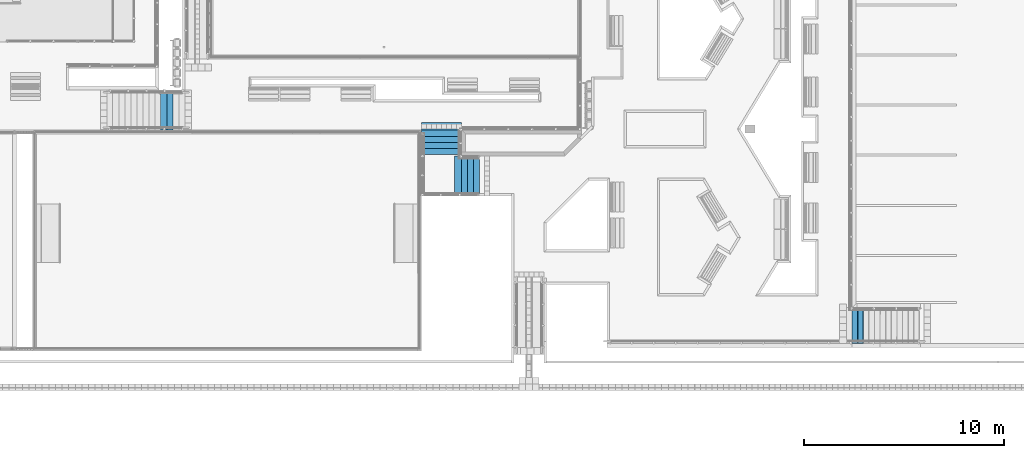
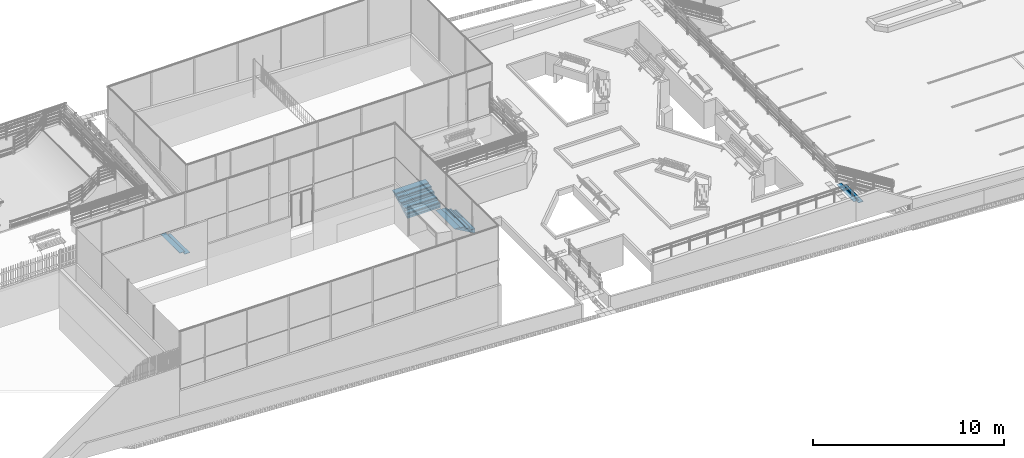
# One storey, part 23 of 237: 13 members, 3 elements without a shape of their own.
"""IFC2X3 building model written with IfcOpenShell, lengths in millimetres."""

from ifc_helpers import new_model, entity, si_unit, converted_unit, derived_unit, money_unit, direction, frame, origin_with_axes, place, context, subcontext, project, spatial, faceted_brep, material, type_object, element, aggregate, save


model = new_model("IFC2X3")

# Units and contexts
model_context = context("Model", 3, precision=0.01, world=origin_with_axes(), true_north=direction((0.0, 1.0)))
body_context = subcontext(model_context, "Body", "Model", "MODEL_VIEW")
ifc_project = project(units=[si_unit("LENGTHUNIT", "METRE", prefix="MILLI"), si_unit("AREAUNIT", "SQUARE_METRE"), si_unit("VOLUMEUNIT", "CUBIC_METRE"), converted_unit("PLANEANGLEUNIT", "DEGREE", entity("IfcPlaneAngleMeasure", 0.0174532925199), si_unit("PLANEANGLEUNIT", "RADIAN"), dimensions=[0, 0, 0, 0, 0, 0, 0]), money_unit("USD"), converted_unit("TIMEUNIT", "Year", entity("IfcTimeMeasure", 31556926.0), si_unit("TIMEUNIT", "SECOND"), dimensions=[0, 0, 1, 0, 0, 0, 0]), si_unit("MASSUNIT", "GRAM", prefix="KILO"), si_unit("THERMODYNAMICTEMPERATUREUNIT", "DEGREE_CELSIUS"), si_unit("LUMINOUSINTENSITYUNIT", "LUMEN"), si_unit("ENERGYUNIT", "JOULE", prefix="MEGA"), derived_unit("THERMALCONDUCTANCEUNIT", [(si_unit("POWERUNIT", "WATT"), 1), (si_unit("LENGTHUNIT", "METRE"), -1), (si_unit("THERMODYNAMICTEMPERATUREUNIT", "KELVIN"), -1)]), derived_unit("SPECIFICHEATCAPACITYUNIT", [(si_unit("ENERGYUNIT", "JOULE"), 1), (si_unit("MASSUNIT", "GRAM", prefix="KILO"), -1), (si_unit("THERMODYNAMICTEMPERATUREUNIT", "KELVIN"), -1)]), derived_unit("MASSDENSITYUNIT", [(si_unit("MASSUNIT", "GRAM", prefix="KILO"), 1), (si_unit("VOLUMEUNIT", "CUBIC_METRE"), -1)])], contexts=[model_context])

# Site, building, storey
site_placement = place(None, origin_with_axes())
site = spatial("IfcSite", under=ifc_project, at=site_placement, Name="Local", CompositionType="ELEMENT")
building_placement = place(site_placement, origin_with_axes())
building = spatial("IfcBuilding", under=site, at=building_placement, Name="Construção", CompositionType="ELEMENT")
storey_placement = place(building_placement, origin_with_axes())
storey = spatial("IfcBuildingStorey", under=building, at=storey_placement, Name="Pavimento Térreo", CompositionType="ELEMENT", Elevation=0.0)

# Stair, members
stair_1_placement = place(storey_placement, frame((103623.862542, 14794.5079943, -7274.60754302), z_axis=(0.0, 0.0, 1.0), x_axis=(1.0, 0.0, 0.0)))
stair_1 = element("IfcStair", 1, at=stair_1_placement, inside=storey, Name="Escada - 012", ShapeType="NOTDEFINED")
ifc_material_1 = material(Name="Concreto Armado - Pré-fabricado")
member_type = type_object("IfcMemberType", Name="IfcMember", PredefinedType="NOTDEFINED")
member_1_placement = place(stair_1_placement, frame((-2801.30174053, -895.940041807, 1929.23076923), z_axis=(0.0, 0.0, 1.0), x_axis=(0.00144964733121, 0.999998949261, 0.0)))
member_1 = element("IfcMember", 2, at=member_1_placement, type_object=member_type, material=ifc_material_1, Name="Piso Esc. - 112", context=body_context, shape_type="Brep", body=[
    faceted_brep([(-903.222860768, 80.0, 0.0), (-903.222860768, 95.0, 0.0), (900.0, 95.0, 0.0), (900.0, 295.000011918, 0.0), (-903.562412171, 295.000000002, 0.0), (-903.222860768, 0.0, 0.0), (900.0, 0.0, 0.0), (900.0, 15.0, 0.0), (-903.222860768, 15.0, 0.0), (-903.222860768, 30.0, 0.0), (900.0, 30.0, 0.0), (900.0, 47.5, 0.0), (-903.222860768, 47.5, 0.0), (-903.222860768, 62.5, 0.0), (900.0, 62.5, 0.0), (900.0, 80.0, 0.0), (-903.222860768, 80.0, -5.0), (-903.222860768, 95.0, -5.0), (900.0, 95.0, -5.0), (900.0, 80.0, -5.0), (900.0, 62.5, -5.0), (900.0, 47.5, -5.0), (900.0, 30.0, -5.0), (900.0, 15.0, -5.0), (900.0, 0.0, -25.0), (900.0, 295.000011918, -25.0), (-903.562412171, 295.000000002, -25.0), (-903.222860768, 0.0, -25.0), (-903.222860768, 15.0, -5.0), (-903.222860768, 30.0, -5.0), (-903.222860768, 47.5, -5.0), (-903.222860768, 62.5, -5.0)], [[[0, 1, 2, 3, 4, 5, 6, 7, 8, 9, 10, 11, 12, 13, 14, 15]], [[1, 0, 16, 17]], [[18, 2, 1, 17]], [[19, 15, 14, 20, 21, 11, 10, 22, 23, 7, 6, 24, 25, 3, 2, 18]], [[3, 25, 26, 4]], [[4, 26, 27, 5]], [[5, 27, 24, 6]], [[23, 28, 8, 7]], [[28, 29, 9, 8]], [[9, 29, 22, 10]], [[11, 21, 30, 12]], [[12, 30, 31, 13]], [[14, 13, 31, 20]], [[0, 15, 19, 16]], [[19, 18, 17, 16]], [[20, 31, 30, 21]], [[29, 28, 23, 22]], [[24, 27, 26, 25]]]),
])
member_2_placement = place(stair_1_placement, frame((-3081.30144632, -895.534140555, 2104.61538462), z_axis=(0.0, 0.0, 1.0), x_axis=(0.00144964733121, 0.999998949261, 0.0)))
member_2 = element("IfcMember", 3, at=member_2_placement, type_object=member_type, material=ifc_material_1, Name="Piso Esc. - 114", context=body_context, shape_type="Brep", body=[
    faceted_brep([(-903.545146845, 80.0, 0.0), (-903.545146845, 95.0, 0.0), (900.0, 95.0, 0.0), (900.0, 280.0, 0.0), (900.0, 295.0, 0.0), (-903.884690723, 294.993462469, 0.0), (-903.867425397, 279.993462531, 0.0), (-903.545146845, 0.0, 0.0), (900.0, 0.0, 0.0), (900.0, 15.0, 0.0), (-903.545146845, 15.0, 0.0), (-903.545146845, 30.0, 0.0), (900.0, 30.0, 0.0), (900.0, 47.5, 0.0), (-903.545146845, 47.5, 0.0), (-903.545146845, 62.5, 0.0), (900.0, 62.5, 0.0), (900.0, 80.0, 0.0), (-903.545146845, 80.0, -5.0), (-903.545146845, 95.0, -5.0), (900.0, 95.0, -5.0), (900.0, 80.0, -5.0), (900.0, 62.5, -5.0), (900.0, 47.5, -5.0), (900.0, 30.0, -5.0), (900.0, 15.0, -5.0), (900.0, 0.0, -25.0), (900.0, 280.0, -25.0), (900.0, 295.0, -25.0), (-903.884690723, 294.993462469, -25.0), (-903.867425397, 279.993462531, -25.0), (-903.545146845, 0.0, -25.0), (-903.545146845, 15.0, -5.0), (-903.545146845, 30.0, -5.0), (-903.545146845, 47.5, -5.0), (-903.545146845, 62.5, -5.0)], [[[0, 1, 2, 3, 4, 5, 6, 7, 8, 9, 10, 11, 12, 13, 14, 15, 16, 17]], [[1, 0, 18, 19]], [[20, 2, 1, 19]], [[21, 17, 16, 22, 23, 13, 12, 24, 25, 9, 8, 26, 27, 3, 2, 20]], [[3, 27, 28, 4]], [[4, 28, 29, 5]], [[5, 29, 30, 6]], [[6, 30, 31, 7]], [[7, 31, 26, 8]], [[25, 32, 10, 9]], [[32, 33, 11, 10]], [[11, 33, 24, 12]], [[13, 23, 34, 14]], [[14, 34, 35, 15]], [[16, 15, 35, 22]], [[0, 17, 21, 18]], [[21, 20, 19, 18]], [[22, 35, 34, 23]], [[33, 32, 25, 24]], [[28, 27, 26, 31, 30, 29]]]),
])
aggregate(stair_1, [member_1, member_2])

stair_2_placement = place(storey_placement, frame((66962.5028921, 25657.7253191, -3507.10819655), z_axis=(0.0, 0.0, 1.0), x_axis=(1.0, 0.0, 0.0)))
stair_2 = element("IfcStair", 4, at=stair_2_placement, inside=storey, Name="Escada - 009", ShapeType="NOTDEFINED")
member_3_placement = place(stair_2_placement, frame((-600.0, -1000.0, 496.153846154), z_axis=(0.0, 0.0, 1.0), x_axis=(0.0, 1.0, 0.0)))
member_3 = element("IfcMember", 5, at=member_3_placement, type_object=member_type, material=ifc_material_1, Name="Piso Esc. - 068", context=body_context, shape_type="Brep", body=[
    faceted_brep([(-1000.0, 95.0, 0.0), (1000.0, 95.0, 0.0), (1000.0, 315.0, 0.0), (-1000.0, 315.0, 0.0), (1000.0, 95.0, -5.0), (-1000.0, 95.0, -5.0), (1000.0, 80.0, -5.0), (1000.0, 80.0, 0.0), (1000.0, 62.5, 0.0), (1000.0, 62.5, -5.0), (1000.0, 47.5, -5.0), (1000.0, 47.5, 0.0), (1000.0, 30.0, 0.0), (1000.0, 30.0, -5.0), (1000.0, 15.0, -5.0), (1000.0, 15.0, 0.0), (1000.0, 0.0, 0.0), (1000.0, 0.0, -25.0), (1000.0, 315.0, -25.0), (-1000.0, 315.0, -25.0), (-1000.0, 0.0, -25.0), (-1000.0, 0.0, 0.0), (-1000.0, 15.0, 0.0), (-1000.0, 15.0, -5.0), (-1000.0, 30.0, -5.0), (-1000.0, 30.0, 0.0), (-1000.0, 47.5, 0.0), (-1000.0, 47.5, -5.0), (-1000.0, 62.5, -5.0), (-1000.0, 62.5, 0.0), (-1000.0, 80.0, 0.0), (-1000.0, 80.0, -5.0)], [[[0, 1, 2, 3]], [[4, 1, 0, 5]], [[6, 7, 8, 9, 10, 11, 12, 13, 14, 15, 16, 17, 18, 2, 1, 4]], [[2, 18, 19, 3]], [[5, 0, 3, 19, 20, 21, 22, 23, 24, 25, 26, 27, 28, 29, 30, 31]], [[6, 4, 5, 31]], [[30, 7, 6, 31]], [[7, 30, 29, 8]], [[8, 29, 28, 9]], [[9, 28, 27, 10]], [[11, 10, 27, 26]], [[26, 25, 12, 11]], [[25, 24, 13, 12]], [[24, 23, 14, 13]], [[14, 23, 22, 15]], [[21, 16, 15, 22]], [[21, 20, 17, 16]], [[17, 20, 19, 18]]]),
])
member_4_placement = place(stair_2_placement, frame((-900.0, -1000.0, 661.538461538), z_axis=(0.0, 0.0, 1.0), x_axis=(0.0, 1.0, 0.0)))
member_4 = element("IfcMember", 6, at=member_4_placement, type_object=member_type, material=ifc_material_1, Name="Piso Esc. - 069", context=body_context, shape_type="Brep", body=[
    faceted_brep([(-1000.0, 95.0, 0.0), (1000.0, 95.0, 0.0), (1000.0, 315.0, 0.0), (-1000.0, 315.0, 0.0), (1000.0, 95.0, -5.0), (-1000.0, 95.0, -5.0), (1000.0, 80.0, -5.0), (1000.0, 80.0, 0.0), (1000.0, 62.5, 0.0), (1000.0, 62.5, -5.0), (1000.0, 47.5, -5.0), (1000.0, 47.5, 0.0), (1000.0, 30.0, 0.0), (1000.0, 30.0, -5.0), (1000.0, 15.0, -5.0), (1000.0, 15.0, 0.0), (1000.0, 0.0, 0.0), (1000.0, 0.0, -25.0), (1000.0, 315.0, -25.0), (-1000.0, 315.0, -25.0), (-1000.0, 0.0, -25.0), (-1000.0, 0.0, 0.0), (-1000.0, 15.0, 0.0), (-1000.0, 15.0, -5.0), (-1000.0, 30.0, -5.0), (-1000.0, 30.0, 0.0), (-1000.0, 47.5, 0.0), (-1000.0, 47.5, -5.0), (-1000.0, 62.5, -5.0), (-1000.0, 62.5, 0.0), (-1000.0, 80.0, 0.0), (-1000.0, 80.0, -5.0)], [[[0, 1, 2, 3]], [[4, 1, 0, 5]], [[6, 7, 8, 9, 10, 11, 12, 13, 14, 15, 16, 17, 18, 2, 1, 4]], [[2, 18, 19, 3]], [[5, 0, 3, 19, 20, 21, 22, 23, 24, 25, 26, 27, 28, 29, 30, 31]], [[6, 4, 5, 31]], [[30, 7, 6, 31]], [[7, 30, 29, 8]], [[8, 29, 28, 9]], [[9, 28, 27, 10]], [[11, 10, 27, 26]], [[26, 25, 12, 11]], [[25, 24, 13, 12]], [[24, 23, 14, 13]], [[14, 23, 22, 15]], [[21, 16, 15, 22]], [[21, 20, 17, 16]], [[17, 20, 19, 18]]]),
])
aggregate(stair_2, [member_3, member_4])

stair_3_placement = place(storey_placement, frame((81668.9594957, 22372.4191106, -5007.05726823), z_axis=(0.0, 0.0, 1.0), x_axis=(1.0, 0.0, 0.0)))
stair_3 = element("IfcStair", 7, at=stair_3_placement, inside=storey, Name="Escada - 008", ShapeType="NOTDEFINED")
ifc_material_2 = material(Name="Concreto - Estrutural")
member_5_placement = place(stair_3_placement, origin_with_axes())
member_5 = element("IfcMember", 8, at=member_5_placement, type_object=member_type, material=ifc_material_2, Name="Lance - 009", context=body_context, shape_type="Brep", body=[
    faceted_brep([(-800.0, -2000.0, 296.715220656), (-800.0, 0.0, 296.715220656), (-700.0, 0.0, 241.1596651), (-700.0, -2000.0, 241.1596651), (-900.000016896, -1.68958100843e-05, 352.270785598), (-900.000016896, -2000.0, 352.270785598), (-1240.91260282, -2000.0, 541.666666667), (-1240.91260282, -1.68958100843e-05, 541.666666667), (-900.000016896, 6.52813914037e-06, 475.0), (-615.0, 0.0, 475.0), (-615.0, 0.0, 308.333333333), (-315.0, 0.0, 308.333333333), (-315.0, 0.0, 141.666666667), (-15.0, 0.0, 141.666666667), (-15.0, 0.0, -25.0), (0.0, 0.0, -25.0), (0.0, 0.0, -100.0), (-85.9126028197, 0.0, -100.0), (-100.0, 0.0, -92.1736682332), (-150.0, 0.0, -64.3958904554), (-200.0, 0.0, -36.6181126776), (-225.0, 0.0, -22.7292237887), (-300.0, 0.0, 18.9374428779), (-375.0, 0.0, 60.6041095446), (-400.0, 0.0, 74.4929984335), (-450.0, 0.0, 102.270776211), (-500.0, 0.0, 130.048553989), (-525.0, 0.0, 143.937442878), (-600.0, 0.0, 185.604109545), (-914.999987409, 6.85454537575e-06, 541.666666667), (-914.999987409, 6.85454537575e-06, 475.0), (-600.0, -2000.0, 185.604109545), (-525.0, -2000.0, 143.937442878), (-500.0, -2000.0, 130.048553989), (-450.0, -2000.0, 102.270776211), (-400.0, -2000.0, 74.4929984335), (-375.0, -2000.0, 60.6041095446), (-300.0, -2000.0, 18.9374428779), (-225.0, -2000.0, -22.7292237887), (-200.0, -2000.0, -36.6181126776), (-150.0, -2000.0, -64.3958904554), (-100.0, -2000.0, -92.1736682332), (-85.9126028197, -2000.0, -100.0), (0.0, -2000.0, -100.0), (0.0, -2000.0, -25.0), (-15.0, -2000.0, -25.0), (-15.0, -2000.0, 141.666666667), (-315.0, -2000.0, 141.666666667), (-315.0, -2000.0, 308.333333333), (-615.0, -2000.0, 308.333333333), (-615.0, -2000.0, 475.0), (-900.000016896, -2000.0, 475.0), (-914.999987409, -2000.0, 475.0), (-914.999987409, -2000.0, 541.666666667)], [[[0, 1, 2, 3]], [[4, 1, 0, 5, 6, 7]], [[8, 9, 10, 11, 12, 13, 14, 15, 16, 17, 18, 19, 20, 21, 22, 23, 24, 25, 26, 27, 28, 2, 1, 4, 7, 29, 30]], [[3, 2, 28, 31]], [[5, 0, 3, 31, 32, 33, 34, 35, 36, 37, 38, 39, 40, 41, 42, 43, 44, 45, 46, 47, 48, 49, 50, 51, 52, 53, 6]], [[6, 53, 29, 7]], [[51, 50, 9, 8, 30, 52]], [[50, 49, 10, 9]], [[49, 48, 11, 10]], [[48, 47, 12, 11]], [[47, 46, 13, 12]], [[46, 45, 14, 13]], [[14, 45, 44, 15]], [[43, 16, 15, 44]], [[17, 16, 43, 42]], [[41, 18, 17, 42]], [[40, 19, 18, 41]], [[39, 20, 19, 40]], [[38, 21, 20, 39]], [[37, 22, 21, 38]], [[36, 23, 22, 37]], [[35, 24, 23, 36]], [[34, 25, 24, 35]], [[33, 26, 25, 34]], [[32, 27, 26, 33]], [[31, 28, 27, 32]], [[52, 30, 29, 53]]]),
])
member_6_placement = place(stair_3_placement, origin_with_axes())
member_6 = element("IfcMember", 9, at=member_6_placement, type_object=member_type, material=ifc_material_2, Name="Lance - 010", context=body_context, shape_type="Brep", body=[
    faceted_brep([(-2900.0, 1196.75448874, 1143.93744288), (-900.0, 1196.75448874, 1143.93744288), (-900.0, 1121.75448874, 1102.27077621), (-2900.0, 1121.75448874, 1102.27077621), (-900.0, 1271.75448874, 1185.60410954), (-2900.0, 1271.75448874, 1185.60410954), (-2900.0, 1657.66709156, 1400.0), (-900.0, 1657.66709156, 1400.0), (-900.0, 1271.75448874, 1308.33333333), (-900.0, 986.754488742, 1308.33333333), (-900.0, 986.754488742, 1141.66666667), (-900.0, 686.754488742, 1141.66666667), (-900.0, 686.754488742, 975.0), (-900.0, 386.754488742, 975.0), (-900.0, 386.754488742, 808.333333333), (-900.0, 86.7544887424, 808.333333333), (-900.0, 86.7544887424, 641.666666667), (-900.0, 71.7544887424, 641.666666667), (-899.99998843, 71.7544887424, 541.666666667), (-899.999985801, 112.667091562, 541.666666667), (-899.999985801, 171.754488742, 574.492998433), (-899.999985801, 271.754488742, 630.048553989), (-899.999985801, 371.754488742, 685.604109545), (-900.0, 446.754488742, 727.270776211), (-900.0, 521.754488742, 768.937442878), (-900.0, 596.754488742, 810.604109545), (-900.0, 671.754488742, 852.270776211), (-900.0, 771.754488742, 907.826331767), (-900.0, 871.754488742, 963.381887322), (-900.0, 971.754488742, 1018.93744288), (-900.0, 1046.75448874, 1060.60410954), (-900.0, 1286.75448874, 1400.0), (-900.0, 1286.75448874, 1308.33333333), (-2900.0, 1046.75448874, 1060.60410954), (-2900.0, 971.754488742, 1018.93744288), (-2900.0, 871.754488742, 963.381887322), (-2900.0, 771.754488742, 907.826331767), (-2900.0, 671.754488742, 852.270776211), (-2900.0, 596.754488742, 810.604109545), (-2900.0, 521.754488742, 768.937442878), (-2900.0, 446.754488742, 727.270776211), (-2900.0, 371.754488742, 685.604109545), (-2900.0, 271.754488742, 630.048553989), (-2900.0, 171.754488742, 574.492998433), (-2900.0, 112.667091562, 541.666666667), (-2900.0, 71.7544887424, 541.666666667), (-2900.0, 71.7544887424, 641.666666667), (-2900.0, 86.7544887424, 641.666666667), (-2900.0, 86.7544887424, 808.333333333), (-2900.0, 386.754488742, 808.333333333), (-2900.0, 386.754488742, 975.0), (-2900.0, 686.754488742, 975.0), (-2900.0, 686.754488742, 1141.66666667), (-2900.0, 986.754488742, 1141.66666667), (-2900.0, 986.754488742, 1308.33333333), (-2900.0, 1271.75448874, 1308.33333333), (-2900.0, 1286.75448874, 1308.33333333), (-2900.0, 1286.75448874, 1400.0)], [[[0, 1, 2, 3]], [[4, 1, 0, 5, 6, 7]], [[8, 9, 10, 11, 12, 13, 14, 15, 16, 17, 18, 19, 20, 21, 22, 23, 24, 25, 26, 27, 28, 29, 30, 2, 1, 4, 7, 31, 32]], [[3, 2, 30, 33]], [[5, 0, 3, 33, 34, 35, 36, 37, 38, 39, 40, 41, 42, 43, 44, 45, 46, 47, 48, 49, 50, 51, 52, 53, 54, 55, 56, 57, 6]], [[6, 57, 31, 7]], [[55, 54, 9, 8, 32, 56]], [[54, 53, 10, 9]], [[52, 11, 10, 53]], [[52, 51, 12, 11]], [[50, 13, 12, 51]], [[50, 49, 14, 13]], [[48, 15, 14, 49]], [[48, 47, 16, 15]], [[47, 46, 17, 16]], [[45, 18, 17, 46]], [[19, 18, 45, 44]], [[43, 20, 19, 44]], [[42, 21, 20, 43]], [[41, 22, 21, 42]], [[40, 23, 22, 41]], [[39, 24, 23, 40]], [[38, 25, 24, 39]], [[37, 26, 25, 38]], [[36, 27, 26, 37]], [[35, 28, 27, 36]], [[34, 29, 28, 35]], [[33, 30, 29, 34]], [[56, 32, 31, 57]]]),
])
member_7_placement = place(stair_3_placement, frame((0.0, -1000.0, 166.666666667), z_axis=(0.0, 0.0, 1.0), x_axis=(0.0, 1.0, 0.0)))
member_7 = element("IfcMember", 10, at=member_7_placement, type_object=member_type, material=ifc_material_1, Name="Piso Esc. - 059", context=body_context, shape_type="Brep", body=[
    faceted_brep([(-1000.0, 95.0, 0.0), (1000.0, 95.0, 0.0), (1000.0, 315.0, 0.0), (-1000.0, 315.0, 0.0), (1000.0, 95.0, -5.0), (-1000.0, 95.0, -5.0), (1000.0, 80.0, -5.0), (1000.0, 80.0, 0.0), (1000.0, 62.5, 0.0), (1000.0, 62.5, -5.0), (1000.0, 47.5, -5.0), (1000.0, 47.5, 0.0), (1000.0, 30.0, 0.0), (1000.0, 30.0, -5.0), (1000.0, 15.0, -5.0), (1000.0, 15.0, 0.0), (1000.0, 0.0, 0.0), (1000.0, 0.0, -25.0), (1000.0, 315.0, -25.0), (-1000.0, 315.0, -25.0), (-1000.0, 0.0, -25.0), (-1000.0, 0.0, 0.0), (-1000.0, 15.0, 0.0), (-1000.0, 15.0, -5.0), (-1000.0, 30.0, -5.0), (-1000.0, 30.0, 0.0), (-1000.0, 47.5, 0.0), (-1000.0, 47.5, -5.0), (-1000.0, 62.5, -5.0), (-1000.0, 62.5, 0.0), (-1000.0, 80.0, 0.0), (-1000.0, 80.0, -5.0)], [[[0, 1, 2, 3]], [[4, 1, 0, 5]], [[6, 7, 8, 9, 10, 11, 12, 13, 14, 15, 16, 17, 18, 2, 1, 4]], [[2, 18, 19, 3]], [[5, 0, 3, 19, 20, 21, 22, 23, 24, 25, 26, 27, 28, 29, 30, 31]], [[6, 4, 5, 31]], [[30, 7, 6, 31]], [[7, 30, 29, 8]], [[8, 29, 28, 9]], [[9, 28, 27, 10]], [[11, 10, 27, 26]], [[26, 25, 12, 11]], [[25, 24, 13, 12]], [[24, 23, 14, 13]], [[14, 23, 22, 15]], [[21, 16, 15, 22]], [[21, 20, 17, 16]], [[17, 20, 19, 18]]]),
])
member_8_placement = place(stair_3_placement, frame((-300.0, -1000.0, 333.333333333), z_axis=(0.0, 0.0, 1.0), x_axis=(0.0, 1.0, 0.0)))
member_8 = element("IfcMember", 11, at=member_8_placement, type_object=member_type, material=ifc_material_1, Name="Piso Esc. - 060", context=body_context, shape_type="Brep", body=[
    faceted_brep([(-1000.0, 95.0, 0.0), (1000.0, 95.0, 0.0), (1000.0, 315.0, 0.0), (-1000.0, 315.0, 0.0), (1000.0, 95.0, -5.0), (-1000.0, 95.0, -5.0), (1000.0, 80.0, -5.0), (1000.0, 80.0, 0.0), (1000.0, 62.5, 0.0), (1000.0, 62.5, -5.0), (1000.0, 47.5, -5.0), (1000.0, 47.5, 0.0), (1000.0, 30.0, 0.0), (1000.0, 30.0, -5.0), (1000.0, 15.0, -5.0), (1000.0, 15.0, 0.0), (1000.0, 0.0, 0.0), (1000.0, 0.0, -25.0), (1000.0, 315.0, -25.0), (-1000.0, 315.0, -25.0), (-1000.0, 0.0, -25.0), (-1000.0, 0.0, 0.0), (-1000.0, 15.0, 0.0), (-1000.0, 15.0, -5.0), (-1000.0, 30.0, -5.0), (-1000.0, 30.0, 0.0), (-1000.0, 47.5, 0.0), (-1000.0, 47.5, -5.0), (-1000.0, 62.5, -5.0), (-1000.0, 62.5, 0.0), (-1000.0, 80.0, 0.0), (-1000.0, 80.0, -5.0)], [[[0, 1, 2, 3]], [[4, 1, 0, 5]], [[6, 7, 8, 9, 10, 11, 12, 13, 14, 15, 16, 17, 18, 2, 1, 4]], [[2, 18, 19, 3]], [[5, 0, 3, 19, 20, 21, 22, 23, 24, 25, 26, 27, 28, 29, 30, 31]], [[6, 4, 5, 31]], [[30, 7, 6, 31]], [[7, 30, 29, 8]], [[8, 29, 28, 9]], [[9, 28, 27, 10]], [[11, 10, 27, 26]], [[26, 25, 12, 11]], [[25, 24, 13, 12]], [[24, 23, 14, 13]], [[14, 23, 22, 15]], [[21, 16, 15, 22]], [[21, 20, 17, 16]], [[17, 20, 19, 18]]]),
])
member_9_placement = place(stair_3_placement, frame((-600.0, -1000.0, 500.0), z_axis=(0.0, 0.0, 1.0), x_axis=(0.0, 1.0, 0.0)))
member_9 = element("IfcMember", 12, at=member_9_placement, type_object=member_type, material=ifc_material_1, Name="Piso Esc. - 061", context=body_context, shape_type="Brep", body=[
    faceted_brep([(-1000.0, 95.0, 0.0), (1000.0, 95.0, 0.0), (1000.0, 300.0, 0.0), (1000.0, 315.0, 0.0), (-1000.0, 315.0, 0.0), (1000.0, 95.0, -5.0), (-1000.0, 95.0, -5.0), (1000.0, 80.0, -5.0), (1000.0, 80.0, 0.0), (1000.0, 62.5, 0.0), (1000.0, 62.5, -5.0), (1000.0, 47.5, -5.0), (1000.0, 47.5, 0.0), (1000.0, 30.0, 0.0), (1000.0, 30.0, -5.0), (1000.0, 15.0, -5.0), (1000.0, 15.0, 0.0), (1000.0, 0.0, 0.0), (1000.0, 0.0, -25.0), (1000.0, 300.0, -25.0), (1000.0, 315.0, -25.0), (-1000.0, 315.0, -25.0), (-1000.0, 0.0, -25.0), (-1000.0, 0.0, 0.0), (-1000.0, 15.0, 0.0), (-1000.0, 15.0, -5.0), (-1000.0, 30.0, -5.0), (-1000.0, 30.0, 0.0), (-1000.0, 47.5, 0.0), (-1000.0, 47.5, -5.0), (-1000.0, 62.5, -5.0), (-1000.0, 62.5, 0.0), (-1000.0, 80.0, 0.0), (-1000.0, 80.0, -5.0)], [[[0, 1, 2, 3, 4]], [[5, 1, 0, 6]], [[7, 8, 9, 10, 11, 12, 13, 14, 15, 16, 17, 18, 19, 2, 1, 5]], [[2, 19, 20, 3]], [[3, 20, 21, 4]], [[6, 0, 4, 21, 22, 23, 24, 25, 26, 27, 28, 29, 30, 31, 32, 33]], [[7, 5, 6, 33]], [[32, 8, 7, 33]], [[8, 32, 31, 9]], [[9, 31, 30, 10]], [[10, 30, 29, 11]], [[12, 11, 29, 28]], [[28, 27, 13, 12]], [[27, 26, 14, 13]], [[26, 25, 15, 14]], [[15, 25, 24, 16]], [[23, 17, 16, 24]], [[23, 22, 18, 17]], [[21, 20, 19, 18, 22]]]),
])
member_10_placement = place(stair_3_placement, frame((-1900.0, 71.7544887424, 833.333333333), z_axis=(0.0, 0.0, 1.0), x_axis=(1.0, 0.0, 0.0)))
member_10 = element("IfcMember", 13, at=member_10_placement, type_object=member_type, material=ifc_material_1, Name="Piso Esc. - 062", context=body_context, shape_type="Brep", body=[
    faceted_brep([(-1000.0, 95.0, 0.0), (1000.0, 95.0, 0.0), (1000.0, 315.0, 0.0), (-1000.0, 315.0, 0.0), (1000.0, 95.0, -5.0), (-1000.0, 95.0, -5.0), (1000.0, 80.0, -5.0), (1000.0, 80.0, 0.0), (1000.0, 62.5, 0.0), (1000.0, 62.5, -5.0), (1000.0, 47.5, -5.0), (1000.0, 47.5, 0.0), (1000.0, 30.0, 0.0), (1000.0, 30.0, -5.0), (1000.0, 15.0, -5.0), (1000.0, 15.0, 0.0), (1000.0, 0.0, 0.0), (1000.0, 0.0, -25.0), (1000.0, 315.0, -25.0), (-1000.0, 315.0, -25.0), (-1000.0, 0.0, -25.0), (-1000.0, 0.0, 0.0), (-1000.0, 15.0, 0.0), (-1000.0, 15.0, -5.0), (-1000.0, 30.0, -5.0), (-1000.0, 30.0, 0.0), (-1000.0, 47.5, 0.0), (-1000.0, 47.5, -5.0), (-1000.0, 62.5, -5.0), (-1000.0, 62.5, 0.0), (-1000.0, 80.0, 0.0), (-1000.0, 80.0, -5.0)], [[[0, 1, 2, 3]], [[4, 1, 0, 5]], [[6, 7, 8, 9, 10, 11, 12, 13, 14, 15, 16, 17, 18, 2, 1, 4]], [[2, 18, 19, 3]], [[5, 0, 3, 19, 20, 21, 22, 23, 24, 25, 26, 27, 28, 29, 30, 31]], [[6, 4, 5, 31]], [[30, 7, 6, 31]], [[7, 30, 29, 8]], [[8, 29, 28, 9]], [[9, 28, 27, 10]], [[11, 10, 27, 26]], [[26, 25, 12, 11]], [[25, 24, 13, 12]], [[24, 23, 14, 13]], [[14, 23, 22, 15]], [[21, 16, 15, 22]], [[21, 20, 17, 16]], [[17, 20, 19, 18]]]),
])
member_11_placement = place(stair_3_placement, frame((-1900.0, 371.754488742, 1000.0), z_axis=(0.0, 0.0, 1.0), x_axis=(1.0, 0.0, 0.0)))
member_11 = element("IfcMember", 14, at=member_11_placement, type_object=member_type, material=ifc_material_1, Name="Piso Esc. - 063", context=body_context, shape_type="Brep", body=[
    faceted_brep([(-1000.0, 95.0, 0.0), (1000.0, 95.0, 0.0), (1000.0, 315.0, 0.0), (-1000.0, 315.0, 0.0), (1000.0, 95.0, -5.0), (-1000.0, 95.0, -5.0), (1000.0, 80.0, -5.0), (1000.0, 80.0, 0.0), (1000.0, 62.5, 0.0), (1000.0, 62.5, -5.0), (1000.0, 47.5, -5.0), (1000.0, 47.5, 0.0), (1000.0, 30.0, 0.0), (1000.0, 30.0, -5.0), (1000.0, 15.0, -5.0), (1000.0, 15.0, 0.0), (1000.0, 0.0, 0.0), (1000.0, 0.0, -25.0), (1000.0, 315.0, -25.0), (-1000.0, 315.0, -25.0), (-1000.0, 0.0, -25.0), (-1000.0, 0.0, 0.0), (-1000.0, 15.0, 0.0), (-1000.0, 15.0, -5.0), (-1000.0, 30.0, -5.0), (-1000.0, 30.0, 0.0), (-1000.0, 47.5, 0.0), (-1000.0, 47.5, -5.0), (-1000.0, 62.5, -5.0), (-1000.0, 62.5, 0.0), (-1000.0, 80.0, 0.0), (-1000.0, 80.0, -5.0)], [[[0, 1, 2, 3]], [[4, 1, 0, 5]], [[6, 7, 8, 9, 10, 11, 12, 13, 14, 15, 16, 17, 18, 2, 1, 4]], [[2, 18, 19, 3]], [[5, 0, 3, 19, 20, 21, 22, 23, 24, 25, 26, 27, 28, 29, 30, 31]], [[6, 4, 5, 31]], [[30, 7, 6, 31]], [[7, 30, 29, 8]], [[8, 29, 28, 9]], [[9, 28, 27, 10]], [[11, 10, 27, 26]], [[26, 25, 12, 11]], [[25, 24, 13, 12]], [[24, 23, 14, 13]], [[14, 23, 22, 15]], [[21, 16, 15, 22]], [[21, 20, 17, 16]], [[17, 20, 19, 18]]]),
])
member_12_placement = place(stair_3_placement, frame((-1900.0, 671.754488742, 1166.66666667), z_axis=(0.0, 0.0, 1.0), x_axis=(1.0, 0.0, 0.0)))
member_12 = element("IfcMember", 15, at=member_12_placement, type_object=member_type, material=ifc_material_1, Name="Piso Esc. - 064", context=body_context, shape_type="Brep", body=[
    faceted_brep([(-1000.0, 95.0, 0.0), (1000.0, 95.0, 0.0), (1000.0, 315.0, 0.0), (-1000.0, 315.0, 0.0), (1000.0, 95.0, -5.0), (-1000.0, 95.0, -5.0), (1000.0, 80.0, -5.0), (1000.0, 80.0, 0.0), (1000.0, 62.5, 0.0), (1000.0, 62.5, -5.0), (1000.0, 47.5, -5.0), (1000.0, 47.5, 0.0), (1000.0, 30.0, 0.0), (1000.0, 30.0, -5.0), (1000.0, 15.0, -5.0), (1000.0, 15.0, 0.0), (1000.0, 0.0, 0.0), (1000.0, 0.0, -25.0), (1000.0, 315.0, -25.0), (-1000.0, 315.0, -25.0), (-1000.0, 0.0, -25.0), (-1000.0, 0.0, 0.0), (-1000.0, 15.0, 0.0), (-1000.0, 15.0, -5.0), (-1000.0, 30.0, -5.0), (-1000.0, 30.0, 0.0), (-1000.0, 47.5, 0.0), (-1000.0, 47.5, -5.0), (-1000.0, 62.5, -5.0), (-1000.0, 62.5, 0.0), (-1000.0, 80.0, 0.0), (-1000.0, 80.0, -5.0)], [[[0, 1, 2, 3]], [[4, 1, 0, 5]], [[6, 7, 8, 9, 10, 11, 12, 13, 14, 15, 16, 17, 18, 2, 1, 4]], [[2, 18, 19, 3]], [[5, 0, 3, 19, 20, 21, 22, 23, 24, 25, 26, 27, 28, 29, 30, 31]], [[6, 4, 5, 31]], [[30, 7, 6, 31]], [[7, 30, 29, 8]], [[8, 29, 28, 9]], [[9, 28, 27, 10]], [[11, 10, 27, 26]], [[26, 25, 12, 11]], [[25, 24, 13, 12]], [[24, 23, 14, 13]], [[14, 23, 22, 15]], [[21, 16, 15, 22]], [[21, 20, 17, 16]], [[17, 20, 19, 18]]]),
])
member_13_placement = place(stair_3_placement, frame((-1900.0, 971.754488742, 1333.33333333), z_axis=(0.0, 0.0, 1.0), x_axis=(1.0, 0.0, 0.0)))
member_13 = element("IfcMember", 16, at=member_13_placement, type_object=member_type, material=ifc_material_1, Name="Piso Esc. - 065", context=body_context, shape_type="Brep", body=[
    faceted_brep([(-1000.0, 95.0, 0.0), (1000.0, 95.0, 0.0), (1000.0, 300.0, 0.0), (1000.0, 315.0, 0.0), (-1000.0, 315.0, 0.0), (-1000.0, 300.0, 0.0), (1000.0, 95.0, -5.0), (-1000.0, 95.0, -5.0), (1000.0, 80.0, -5.0), (1000.0, 80.0, 0.0), (1000.0, 62.5, 0.0), (1000.0, 62.5, -5.0), (1000.0, 47.5, -5.0), (1000.0, 47.5, 0.0), (1000.0, 30.0, 0.0), (1000.0, 30.0, -5.0), (1000.0, 15.0, -5.0), (1000.0, 15.0, 0.0), (1000.0, 0.0, 0.0), (1000.0, 0.0, -25.0), (1000.0, 300.0, -25.0), (1000.0, 315.0, -25.0), (-1000.0, 315.0, -25.0), (-1000.0, 300.0, -25.0), (-1000.0, 0.0, -25.0), (-1000.0, 0.0, 0.0), (-1000.0, 15.0, 0.0), (-1000.0, 15.0, -5.0), (-1000.0, 30.0, -5.0), (-1000.0, 30.0, 0.0), (-1000.0, 47.5, 0.0), (-1000.0, 47.5, -5.0), (-1000.0, 62.5, -5.0), (-1000.0, 62.5, 0.0), (-1000.0, 80.0, 0.0), (-1000.0, 80.0, -5.0)], [[[0, 1, 2, 3, 4, 5]], [[6, 1, 0, 7]], [[8, 9, 10, 11, 12, 13, 14, 15, 16, 17, 18, 19, 20, 2, 1, 6]], [[2, 20, 21, 3]], [[3, 21, 22, 4]], [[4, 22, 23, 5]], [[7, 0, 5, 23, 24, 25, 26, 27, 28, 29, 30, 31, 32, 33, 34, 35]], [[8, 6, 7, 35]], [[34, 9, 8, 35]], [[9, 34, 33, 10]], [[10, 33, 32, 11]], [[11, 32, 31, 12]], [[13, 12, 31, 30]], [[30, 29, 14, 13]], [[29, 28, 15, 14]], [[28, 27, 16, 15]], [[16, 27, 26, 17]], [[25, 18, 17, 26]], [[25, 24, 19, 18]], [[21, 20, 19, 24, 23, 22]]]),
])
aggregate(stair_3, [member_5, member_6, member_7, member_8, member_9, member_10, member_11, member_12, member_13])

save(model, "model.ifc")
